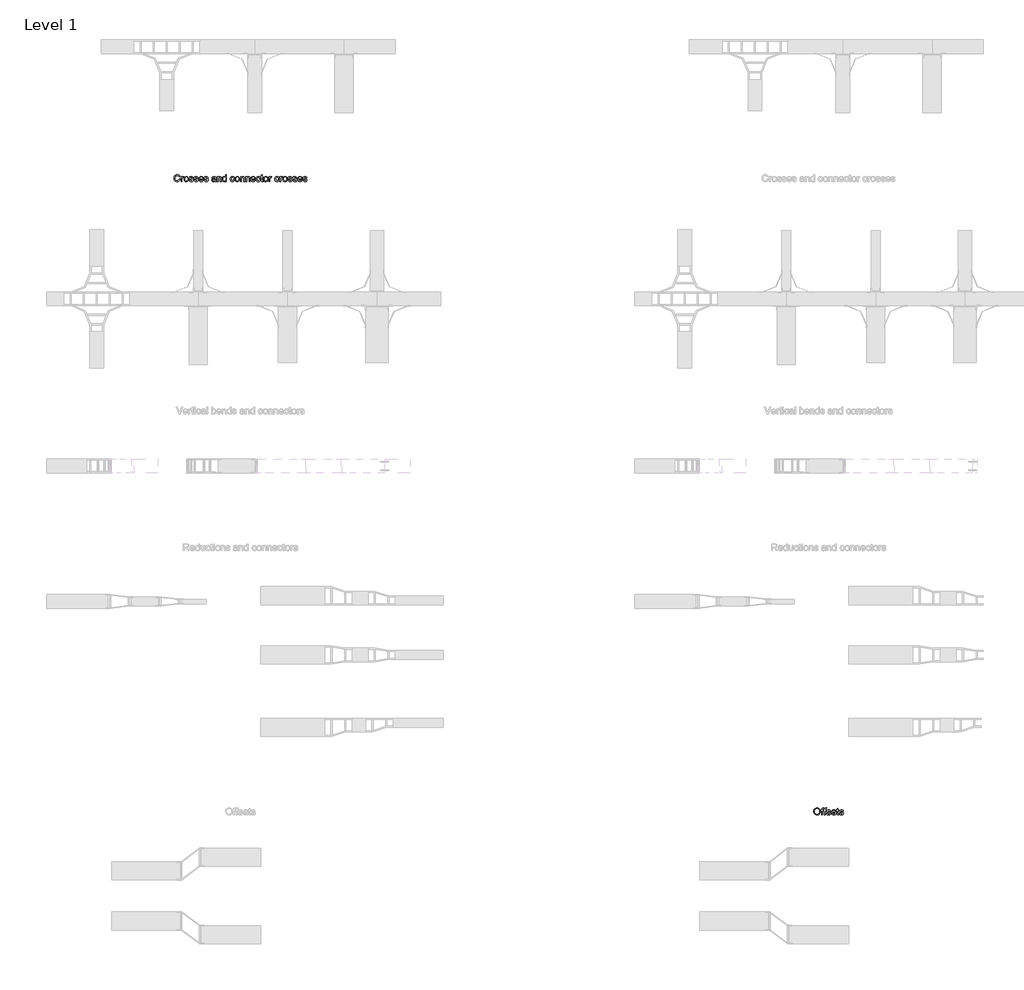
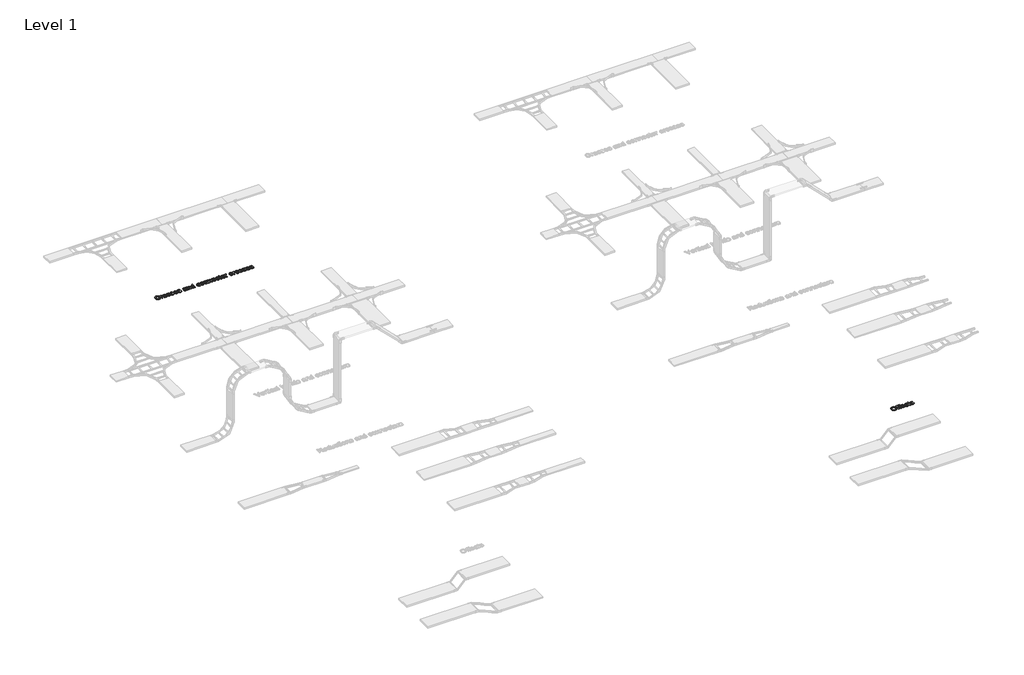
# One storey, part 44 of 106: 2 proxies.
"""IFC4 building model written with IfcOpenShell, lengths in millimetres."""

from ifc_helpers import new_model, si_unit, origin, origin_with_axes, place, context, project, spatial, polyline, outline, extrude, element, save

model = new_model("IFC4")

# Units and contexts
model_context = context("Model", 3, world=origin())
ifc_project = project(units=[si_unit("LENGTHUNIT", "METRE", prefix="MILLI")], contexts=[model_context])

# Site, building, storey
site = spatial("IfcSite", under=ifc_project)
building = spatial("IfcBuilding", under=site)
storey = spatial("IfcBuildingStorey", under=building, Name="Level 1", Elevation=0.0)

# Proxies
placement = place(None, origin())
element("IfcBuildingElementProxy", 1, Name="150mm Arial 2", ObjectType="150mm Arial 2", at=placement, inside=storey, context=model_context, shape_type="SweptSolid", body=[
    extrude(outline(polyline([(41573.187076, 30901.4112533), (41592.0226342, 30896.5552109), (41583.331422, 30874.6064514), (41569.6921971, 30858.5713949), (41551.7763439, 30848.7627412), (41530.2552472, 30845.49319), (41508.4076552, 30847.9671964), (41491.0574206, 30855.3892157), (41477.7584865, 30867.5017304), (41468.0647959, 30884.0472231), (41462.1464943, 30903.4989836), (41460.1737271, 30924.3303016), (41462.4040117, 30946.3020537), (41469.0948655, 30965.2755676), (41479.8968006, 30980.6484365), (41494.460329, 30991.8182536), (41511.7323887, 30998.619472), (41530.6599174, 31000.8865448), (41551.3118929, 30997.9526859), (41568.386216, 30989.1511091), (41581.3494578, 30975.0244405), (41589.6681894, 30956.115306), (41570.8326312, 30951.6271456), (41564.3027258, 30965.3629396), (41555.3815874, 30974.7853172), (41543.9588515, 30980.2345693), (41529.9241534, 30982.0509866), (41513.7465426, 30980.0368327), (41500.4568056, 30973.9943709), (41490.3722404, 30964.5581977), (41483.8101453, 30952.3629096), (41479.0092852, 30924.3670898), (41480.4302295, 30906.9662714), (41484.6930621, 30891.9198978), (41491.9587315, 30879.8027846), (41502.388186, 30871.1897474), (41514.8915754, 30866.043998), (41528.379049, 30864.3287482), (41544.1014058, 30866.6647988), (41557.2026033, 30873.6729508), (41567.0940305, 30885.2796278), (41573.187076, 30901.4112533)])), origin_with_axes(), (0.0, 0.0, 1.0), 15.0),
    extrude(outline(polyline([(41615.5670819, 30847.8476348), (41615.5670819, 30958.5065389), (41632.0481952, 30958.5065389), (41632.0481952, 30942.1357901), (41643.7468427, 30957.2189519), (41655.5190665, 30960.8609837), (41674.4282011, 30955.0484482), (41668.137419, 30938.1626646), (41654.8936671, 30942.0254255), (41644.2434834, 30938.3098174), (41637.4560606, 30928.0091215), (41634.40264, 30906.0097782), (41634.40264, 30847.8476348), (41615.5670819, 30847.8476348)])), origin_with_axes(), (0.0, 0.0, 1.0), 15.0),
    extrude(outline(polyline([(41681.4915354, 30903.1770869), (41685.5658285, 30929.8577286), (41697.7887078, 30948.6105133), (41712.8902637, 30957.7983661), (41730.9716637, 30960.8609837), (41750.7591166, 30957.13158), (41766.5642468, 30945.9433688), (41776.9247235, 30928.179267), (41780.3782157, 30904.7221912), (41778.8515054, 30885.693495), (41774.2713746, 30871.2081415), (41766.7711804, 30860.3602211), (41756.4842801, 30852.2438246), (41744.2659993, 30847.1808487), (41730.9716637, 30845.49319), (41710.9450876, 30849.2087982), (41695.1583515, 30860.3556226), (41684.9082394, 30878.492205), (41681.4915354, 30903.1770869)]), holes=[polyline([(41700.3270935, 30903.2138751), (41702.5067944, 30886.1671431), (41709.0458968, 30874.0224387), (41718.8867402, 30866.7521708), (41730.9716637, 30864.3287482), (41743.001405, 30866.7659664), (41752.8238543, 30874.077621), (41759.3629567, 30886.3832738), (41761.5426575, 30903.8024862), (41759.3491611, 30920.3525775), (41752.768672, 30932.331735), (41742.9324271, 30939.6020029), (41730.9716637, 30942.0254255), (41718.8867402, 30939.6112), (41709.0458968, 30932.3685232), (41702.5067944, 30920.25141), (41700.3270935, 30903.2138751)])]), origin_with_axes(), (0.0, 0.0, 1.0), 15.0),
    extrude(outline(polyline([(41794.5048843, 30880.8098615), (41813.3404425, 30883.1643063), (41816.3110896, 30875.1076906), (41822.0592457, 30869.1847905), (41842.0352381, 30864.3287482), (41861.2386782, 30868.7801203), (41867.4926722, 30879.227969), (41865.9199766, 30884.028829), (41861.20189, 30887.6892549), (41841.8145089, 30893.060332), (41813.4508071, 30902.275776), (41801.0715779, 30913.0363243), (41796.8593291, 30928.2298507), (41800.2438434, 30942.2645488), (41809.4776815, 30952.988309), (41821.4522405, 30958.5617212), (41837.6574423, 30960.8609837), (41860.5764906, 30957.1637696), (41875.1446177, 30947.1573794), (41881.6193408, 30930.2532017), (41862.7837826, 30927.8987569), (41855.7020542, 30938.2914233), (41839.1289703, 30942.0254255), (41821.1027526, 30938.4569702), (41815.6948872, 30930.1428371), (41817.9389674, 30924.6613954), (41824.9655135, 30920.5043288), (41841.1891095, 30916.4944151), (41868.8354414, 30907.628459), (41881.6745231, 30897.5852805), (41886.3282303, 30881.2145317), (41880.8651827, 30863.188314), (41865.1014392, 30850.1101091), (41841.7777207, 30845.49319), (41822.7858127, 30847.7188761), (41808.9258585, 30854.3959343), (41799.6736263, 30865.4507882), (41794.5048843, 30880.8098615)])), origin_with_axes(), (0.0, 0.0, 1.0), 15.0),
    extrude(outline(polyline([(41900.4548989, 30880.8098615), (41919.2904571, 30883.1643063), (41922.2611042, 30875.1076906), (41928.0092604, 30869.1847905), (41947.9852527, 30864.3287482), (41967.1886928, 30868.7801203), (41973.4426868, 30879.227969), (41971.8699912, 30884.028829), (41967.1519046, 30887.6892549), (41947.7645235, 30893.060332), (41919.4008217, 30902.275776), (41907.0215925, 30913.0363243), (41902.8093437, 30928.2298507), (41906.193858, 30942.2645488), (41915.4276961, 30952.988309), (41927.4022551, 30958.5617212), (41943.607457, 30960.8609837), (41966.5265053, 30957.1637696), (41981.0946323, 30947.1573794), (41987.5693554, 30930.2532017), (41968.7337972, 30927.8987569), (41961.6520688, 30938.2914233), (41945.0789849, 30942.0254255), (41927.0527672, 30938.4569702), (41921.6449018, 30930.1428371), (41923.888982, 30924.6613954), (41930.9155281, 30920.5043288), (41947.1391241, 30916.4944151), (41974.785456, 30907.628459), (41987.6245377, 30897.5852805), (41992.2782449, 30881.2145317), (41986.8151973, 30863.188314), (41971.0514538, 30850.1101091), (41947.7277353, 30845.49319), (41928.7358273, 30847.7188761), (41914.8758731, 30854.3959343), (41905.623641, 30865.4507882), (41900.4548989, 30880.8098615)])), origin_with_axes(), (0.0, 0.0, 1.0), 15.0),
    extrude(outline(polyline([(42090.944196, 30880.8098615), (42109.4118722, 30878.4554168), (42102.7578066, 30864.5402803), (42092.1398125, 30854.1384169), (42077.7970132, 30847.6544967), (42059.968532, 30845.49319), (42037.8680212, 30849.2225937), (42020.8626759, 30860.4108049), (42010.0193541, 30878.3312566), (42006.4049135, 30902.2573819), (42010.0561423, 30926.988249), (42021.0098287, 30945.4835163), (42037.7852477, 30957.0166168), (42058.9016742, 30960.8609837), (42079.3605117, 30957.0258139), (42095.7082679, 30945.5203045), (42106.4274295, 30927.0618254), (42110.0004834, 30902.3677465), (42109.8901188, 30897.2909749), (42025.2404717, 30897.2909749), (42028.5008259, 30883.1918975), (42036.0745964, 30872.8268223), (42047.0052902, 30866.4532667), (42060.336414, 30864.3287482), (42078.8040902, 30868.2650855), (42090.944196, 30880.8098615)]), holes=[polyline([(42025.2404717, 30916.1265331), (42091.1649252, 30916.1265331), (42088.6173424, 30926.0777411), (42083.6233443, 30933.1962577), (42072.6420668, 30939.8181336), (42058.8280978, 30942.0254255), (42046.1315705, 30940.2641905), (42035.633138, 30934.9804853), (42028.335279, 30926.7445272), (42025.2404717, 30916.1265331)])]), origin_with_axes(), (0.0, 0.0, 1.0), 15.0),
    extrude(outline(polyline([(42121.7727072, 30880.8098615), (42140.6082654, 30883.1643063), (42143.5789125, 30875.1076906), (42149.3270687, 30869.1847905), (42169.303061, 30864.3287482), (42188.5065011, 30868.7801203), (42194.7604951, 30879.227969), (42193.1877995, 30884.028829), (42188.4697129, 30887.6892549), (42169.0823318, 30893.060332), (42140.71863, 30902.275776), (42128.3394008, 30913.0363243), (42124.127152, 30928.2298507), (42127.5116663, 30942.2645488), (42136.7455044, 30952.988309), (42148.7200634, 30958.5617212), (42164.9252653, 30960.8609837), (42187.8443136, 30957.1637696), (42202.4124406, 30947.1573794), (42208.8871637, 30930.2532017), (42190.0516055, 30927.8987569), (42182.9698771, 30938.2914233), (42166.3967932, 30942.0254255), (42148.3705755, 30938.4569702), (42142.9627101, 30930.1428371), (42145.2067903, 30924.6613954), (42152.2333364, 30920.5043288), (42168.4569324, 30916.4944151), (42196.1032643, 30907.628459), (42208.942346, 30897.5852805), (42213.5960532, 30881.2145317), (42208.1330056, 30863.188314), (42192.3692621, 30850.1101091), (42169.0455436, 30845.49319), (42150.0536356, 30847.7188761), (42136.1936814, 30854.3959343), (42126.9414493, 30865.4507882), (42121.7727072, 30880.8098615)])), origin_with_axes(), (0.0, 0.0, 1.0), 15.0),
    extrude(outline(polyline([(42364.2805184, 30861.9743034), (42346.0151774, 30849.2087982), (42325.8368499, 30845.49319), (42310.0960991, 30847.7280731), (42298.4848236, 30854.4327225), (42291.3249203, 30864.6138567), (42288.9382858, 30877.2781944), (42292.5435294, 30892.1774152), (42302.0164908, 30902.9931459), (42315.2050603, 30909.1735634), (42331.5022327, 30912.0062547), (42364.1701538, 30918.4809779), (42364.2805184, 30922.6748326), (42362.9837344, 30931.0809362), (42359.0933823, 30936.580772), (42350.3929731, 30940.6642622), (42338.2712614, 30942.0254255), (42319.214974, 30938.4017879), (42310.1282887, 30925.5443122), (42291.2927306, 30927.8987569), (42299.4413168, 30946.2928567), (42315.8488538, 30957.0717991), (42340.6992825, 30960.8609837), (42363.5263603, 30957.5132575), (42376.4206243, 30949.107154), (42382.1963716, 30936.3232546), (42383.1160766, 30919.8421412), (42383.1160766, 30896.4080581), (42384.0725698, 30863.6849547), (42387.8249661, 30847.8476348), (42368.989408, 30847.8476348), (42364.2805184, 30861.9743034)]), holes=[polyline([(42364.2805184, 30899.6454197), (42333.8934656, 30893.8696724), (42317.6882638, 30890.8162518), (42310.3490179, 30885.8498449), (42307.773844, 30878.6025696), (42313.3840444, 30868.4122383), (42329.8467637, 30864.3287482), (42348.903051, 30868.8353026), (42361.1903097, 30879.7430038), (42364.1701538, 30894.3111308), (42364.2805184, 30899.6454197)])]), origin_with_axes(), (0.0, 0.0, 1.0), 15.0),
    extrude(outline(polyline([(42409.0149691, 30847.8476348), (42409.0149691, 30958.5065389), (42427.8505272, 30958.5065389), (42427.8505272, 30943.0554951), (42442.2531073, 30956.4096116), (42461.9164, 30960.8609837), (42479.7034944, 30957.2741342), (42491.8436003, 30947.8563552), (42497.4905889, 30934.0055981), (42498.4838703, 30915.7954393), (42498.4838703, 30847.8476348), (42479.6483121, 30847.8476348), (42479.6483121, 30913.2570535), (42477.4778084, 30929.9221079), (42469.8074688, 30938.7328817), (42456.8764166, 30942.0254255), (42445.8445553, 30940.1768185), (42436.4405718, 30934.6309974), (42429.9980384, 30923.9164343), (42427.8505272, 30906.5616012), (42427.8505272, 30847.8476348), (42409.0149691, 30847.8476348)])), origin_with_axes(), (0.0, 0.0, 1.0), 15.0),
    extrude(outline(polyline([(42592.661661, 30847.8476348), (42592.661661, 30865.6163351), (42580.1996585, 30850.5239763), (42562.973584, 30845.49319), (42550.79669, 30847.3142059), (42539.6498655, 30852.7772535), (42530.2136924, 30861.5006553), (42523.1687522, 30873.1027337), (42518.7817594, 30887.1144392), (42517.3194284, 30903.0667223), (42522.7088997, 30933.0491049), (42529.4411402, 30944.9408904), (42538.8589193, 30953.6872848), (42550.2494655, 30959.067559), (42562.9000076, 30960.8609837), (42580.2640378, 30955.7290299), (42592.661661, 30942.3933075), (42592.661661, 30998.5321), (42611.4972192, 30998.5321), (42611.4972192, 30847.8476348), (42592.661661, 30847.8476348)]), holes=[polyline([(42536.1549866, 30903.1402987), (42538.2795051, 30886.1027638), (42544.6530607, 30873.9856505), (42553.9144899, 30866.7429738), (42564.7026294, 30864.3287482), (42575.4861704, 30866.6326092), (42584.5130749, 30873.5441921), (42590.6245145, 30885.1922558), (42592.661661, 30901.7055589), (42590.5877263, 30919.7593678), (42584.3659221, 30932.2765527), (42575.1090914, 30939.5882073), (42563.9300772, 30942.0254255), (42553.0315731, 30939.6847764), (42544.1012377, 30932.6628288), (42538.1415494, 30920.6008979), (42536.1549866, 30903.1402987)])]), origin_with_axes(), (0.0, 0.0, 1.0), 15.0),
    extrude(outline(polyline([(42769.2450187, 30887.8731959), (42788.0805769, 30885.5187511), (42782.8290614, 30868.7663247), (42772.9606269, 30856.1065856), (42759.4041754, 30848.1465389), (42743.0886089, 30845.49319), (42723.0528357, 30849.1950026), (42707.3856612, 30860.3004403), (42697.2735049, 30878.3220596), (42693.9027861, 30902.7724167), (42695.3421244, 30919.5340401), (42699.6601393, 30934.0607803), (42706.9258087, 30945.7916175), (42717.2081105, 30954.1655314), (42729.5091647, 30959.1871206), (42742.8310915, 30960.8609837), (42758.7465863, 30958.5617212), (42771.4707048, 30951.6639338), (42780.5987768, 30940.5355035), (42785.7261321, 30925.5443122), (42766.890574, 30923.1898674), (42758.1533766, 30937.2981419), (42742.9782443, 30942.0254255), (42730.8059488, 30939.6985719), (42721.1444479, 30932.7180111), (42714.8398702, 30920.7066639), (42712.7383443, 30903.2874515), (42714.7938849, 30885.6337142), (42720.9605069, 30873.5809803), (42730.4472638, 30866.6418062), (42742.4632095, 30864.3287482), (42752.2166809, 30865.772685), (42760.2135157, 30870.1044955), (42766.0306498, 30877.4345442), (42769.2450187, 30887.8731959)])), origin_with_axes(), (0.0, 0.0, 1.0), 15.0),
    extrude(outline(polyline([(42799.8528007, 30903.1770869), (42803.9270938, 30929.8577286), (42816.1499731, 30948.6105133), (42831.251529, 30957.7983661), (42849.3329291, 30960.8609837), (42869.1203819, 30957.13158), (42884.9255121, 30945.9433688), (42895.2859888, 30928.179267), (42898.739481, 30904.7221912), (42897.2127708, 30885.693495), (42892.6326399, 30871.2081415), (42885.1324457, 30860.3602211), (42874.8455454, 30852.2438246), (42862.6272647, 30847.1808487), (42849.3329291, 30845.49319), (42829.306353, 30849.2087982), (42813.5196168, 30860.3556226), (42803.2695048, 30878.492205), (42799.8528007, 30903.1770869)]), holes=[polyline([(42818.6883589, 30903.2138751), (42820.8680597, 30886.1671431), (42827.4071622, 30874.0224387), (42837.2480055, 30866.7521708), (42849.3329291, 30864.3287482), (42861.3626703, 30866.7659664), (42871.1851196, 30874.077621), (42877.7242221, 30886.3832738), (42879.9039229, 30903.8024862), (42877.7104265, 30920.3525775), (42871.1299373, 30932.331735), (42861.2936924, 30939.6020029), (42849.3329291, 30942.0254255), (42837.2480055, 30939.6112), (42827.4071622, 30932.3685232), (42820.8680597, 30920.25141), (42818.6883589, 30903.2138751)])]), origin_with_axes(), (0.0, 0.0, 1.0), 15.0),
    extrude(outline(polyline([(42919.929484, 30847.8476348), (42919.929484, 30958.5065389), (42938.7650421, 30958.5065389), (42938.7650421, 30943.0554951), (42953.1676222, 30956.4096116), (42972.8309149, 30960.8609837), (42990.6180093, 30957.2741342), (43002.7581152, 30947.8563552), (43008.4051038, 30934.0055981), (43009.3983852, 30915.7954393), (43009.3983852, 30847.8476348), (42990.562827, 30847.8476348), (42990.562827, 30913.2570535), (42988.3923233, 30929.9221079), (42980.7219837, 30938.7328817), (42967.7909315, 30942.0254255), (42956.7590702, 30940.1768185), (42947.3550867, 30934.6309974), (42940.9125533, 30923.9164343), (42938.7650421, 30906.5616012), (42938.7650421, 30847.8476348), (42919.929484, 30847.8476348)])), origin_with_axes(), (0.0, 0.0, 1.0), 15.0),
    extrude(outline(polyline([(43035.2972776, 30847.8476348), (43035.2972776, 30958.5065389), (43054.1328358, 30958.5065389), (43054.1328358, 30943.0554951), (43068.5354159, 30956.4096116), (43088.1987085, 30960.8609837), (43105.985803, 30957.2741342), (43118.1259089, 30947.8563552), (43123.7728975, 30934.0055981), (43124.7661789, 30915.7954393), (43124.7661789, 30847.8476348), (43105.9306207, 30847.8476348), (43105.9306207, 30913.2570535), (43103.7601169, 30929.9221079), (43096.0897773, 30938.7328817), (43083.1587252, 30942.0254255), (43072.1268639, 30940.1768185), (43062.7228804, 30934.6309974), (43056.2803469, 30923.9164343), (43054.1328358, 30906.5616012), (43054.1328358, 30847.8476348), (43035.2972776, 30847.8476348)])), origin_with_axes(), (0.0, 0.0, 1.0), 15.0),
    extrude(outline(polyline([(43228.1410195, 30880.8098615), (43246.6086957, 30878.4554168), (43239.9546301, 30864.5402803), (43229.336636, 30854.1384169), (43214.9938367, 30847.6544967), (43197.1653555, 30845.49319), (43175.0648447, 30849.2225937), (43158.0594994, 30860.4108049), (43147.2161776, 30878.3312566), (43143.601737, 30902.2573819), (43147.2529658, 30926.988249), (43158.2066522, 30945.4835163), (43174.9820712, 30957.0166168), (43196.0984977, 30960.8609837), (43216.5573352, 30957.0258139), (43232.9050914, 30945.5203045), (43243.624253, 30927.0618254), (43247.1973069, 30902.3677465), (43247.0869423, 30897.2909749), (43162.4372952, 30897.2909749), (43165.6976494, 30883.1918975), (43173.2714199, 30872.8268223), (43184.2021137, 30866.4532667), (43197.5332375, 30864.3287482), (43216.0009137, 30868.2650855), (43228.1410195, 30880.8098615)]), holes=[polyline([(43162.4372952, 30916.1265331), (43228.3617487, 30916.1265331), (43225.8141659, 30926.0777411), (43220.8201678, 30933.1962577), (43209.8388903, 30939.8181336), (43196.0249213, 30942.0254255), (43183.328394, 30940.2641905), (43172.8299615, 30934.9804853), (43165.5321025, 30926.7445272), (43162.4372952, 30916.1265331)])]), origin_with_axes(), (0.0, 0.0, 1.0), 15.0),
    extrude(outline(polyline([(43336.6662081, 30887.8731959), (43355.5017662, 30885.5187511), (43350.2502508, 30868.7663247), (43340.3818162, 30856.1065856), (43326.8253647, 30848.1465389), (43310.5097982, 30845.49319), (43290.4740251, 30849.1950026), (43274.8068506, 30860.3004403), (43264.6946943, 30878.3220596), (43261.3239755, 30902.7724167), (43262.7633138, 30919.5340401), (43267.0813287, 30934.0607803), (43274.3469981, 30945.7916175), (43284.6292999, 30954.1655314), (43296.9303541, 30959.1871206), (43310.2522808, 30960.8609837), (43326.1677757, 30958.5617212), (43338.8918942, 30951.6639338), (43348.0199662, 30940.5355035), (43353.1473215, 30925.5443122), (43334.3117633, 30923.1898674), (43325.5745659, 30937.2981419), (43310.3994336, 30942.0254255), (43298.2271381, 30939.6985719), (43288.5656372, 30932.7180111), (43282.2610595, 30920.7066639), (43280.1595336, 30903.2874515), (43282.2150743, 30885.6337142), (43288.3816962, 30873.5809803), (43297.8684532, 30866.6418062), (43309.8843988, 30864.3287482), (43319.6378702, 30865.772685), (43327.6347051, 30870.1044955), (43333.4518392, 30877.4345442), (43336.6662081, 30887.8731959)])), origin_with_axes(), (0.0, 0.0, 1.0), 15.0),
    extrude(outline(polyline([(43412.0084407, 30863.556196), (43414.3628855, 30847.2958118), (43400.2730051, 30845.49319), (43384.4908675, 30848.620187), (43376.6181928, 30856.8239555), (43374.3373244, 30878.1978994), (43374.3373244, 30939.6709808), (43360.2106558, 30939.6709808), (43360.2106558, 30958.5065389), (43374.3373244, 30958.5065389), (43374.3373244, 30985.3987128), (43393.1728826, 30996.4719608), (43393.1728826, 30958.5065389), (43412.0084407, 30958.5065389), (43412.0084407, 30939.6709808), (43393.1728826, 30939.6709808), (43393.1728826, 30878.7497224), (43394.1661639, 30869.0376377), (43397.3851314, 30865.597941), (43403.8046722, 30864.3287482), (43412.0084407, 30863.556196)])), origin_with_axes(), (0.0, 0.0, 1.0), 15.0),
    extrude(outline(polyline([(43426.1351093, 30903.1770869), (43430.2094024, 30929.8577286), (43442.4322817, 30948.6105133), (43457.5338376, 30957.7983661), (43475.6152377, 30960.8609837), (43495.4026905, 30957.13158), (43511.2078207, 30945.9433688), (43521.5682974, 30928.179267), (43525.0217896, 30904.7221912), (43523.4950793, 30885.693495), (43518.9149485, 30871.2081415), (43511.4147543, 30860.3602211), (43501.127854, 30852.2438246), (43488.9095733, 30847.1808487), (43475.6152377, 30845.49319), (43455.5886616, 30849.2087982), (43439.8019254, 30860.3556226), (43429.5518133, 30878.492205), (43426.1351093, 30903.1770869)]), holes=[polyline([(43444.9706675, 30903.2138751), (43447.1503683, 30886.1671431), (43453.6894708, 30874.0224387), (43463.5303141, 30866.7521708), (43475.6152377, 30864.3287482), (43487.6449789, 30866.7659664), (43497.4674282, 30874.077621), (43504.0065306, 30886.3832738), (43506.1862315, 30903.8024862), (43503.9927351, 30920.3525775), (43497.4122459, 30932.331735), (43487.576001, 30939.6020029), (43475.6152377, 30942.0254255), (43463.5303141, 30939.6112), (43453.6894708, 30932.3685232), (43447.1503683, 30920.25141), (43444.9706675, 30903.2138751)])]), origin_with_axes(), (0.0, 0.0, 1.0), 15.0),
    extrude(outline(polyline([(43546.2117925, 30847.8476348), (43546.2117925, 30958.5065389), (43562.6929059, 30958.5065389), (43562.6929059, 30942.1357901), (43574.3915534, 30957.2189519), (43586.1637772, 30960.8609837), (43605.0729118, 30955.0484482), (43598.7821297, 30938.1626646), (43585.5383778, 30942.0254255), (43574.8881941, 30938.3098174), (43568.1007713, 30928.0091215), (43565.0473507, 30906.0097782), (43565.0473507, 30847.8476348), (43546.2117925, 30847.8476348)])), origin_with_axes(), (0.0, 0.0, 1.0), 15.0),
    extrude(outline(polyline([(43746.3395979, 30887.8731959), (43765.1751561, 30885.5187511), (43759.9236406, 30868.7663247), (43750.0552061, 30856.1065856), (43736.4987545, 30848.1465389), (43720.1831881, 30845.49319), (43700.1474149, 30849.1950026), (43684.4802404, 30860.3004403), (43674.3680841, 30878.3220596), (43670.9973653, 30902.7724167), (43672.4367036, 30919.5340401), (43676.7547185, 30934.0607803), (43684.0203879, 30945.7916175), (43694.3026897, 30954.1655314), (43706.6037439, 30959.1871206), (43719.9256707, 30960.8609837), (43735.8411655, 30958.5617212), (43748.565284, 30951.6639338), (43757.693356, 30940.5355035), (43762.8207113, 30925.5443122), (43743.9851532, 30923.1898674), (43735.2479558, 30937.2981419), (43720.0728235, 30942.0254255), (43707.9005279, 30939.6985719), (43698.2390271, 30932.7180111), (43691.9344494, 30920.7066639), (43689.8329235, 30903.2874515), (43691.8884641, 30885.6337142), (43698.0550861, 30873.5809803), (43707.541843, 30866.6418062), (43719.5577887, 30864.3287482), (43729.3112601, 30865.772685), (43737.3080949, 30870.1044955), (43743.125229, 30877.4345442), (43746.3395979, 30887.8731959)])), origin_with_axes(), (0.0, 0.0, 1.0), 15.0),
    extrude(outline(polyline([(43781.6562695, 30847.8476348), (43781.6562695, 30958.5065389), (43798.1373828, 30958.5065389), (43798.1373828, 30942.1357901), (43809.8360303, 30957.2189519), (43821.6082541, 30960.8609837), (43840.5173887, 30955.0484482), (43834.2266066, 30938.1626646), (43820.9828547, 30942.0254255), (43810.332671, 30938.3098174), (43803.5452482, 30928.0091215), (43800.4918276, 30906.0097782), (43800.4918276, 30847.8476348), (43781.6562695, 30847.8476348)])), origin_with_axes(), (0.0, 0.0, 1.0), 15.0),
    extrude(outline(polyline([(43847.580723, 30903.1770869), (43851.6550161, 30929.8577286), (43863.8778954, 30948.6105133), (43878.9794513, 30957.7983661), (43897.0608513, 30960.8609837), (43916.8483042, 30957.13158), (43932.6534344, 30945.9433688), (43943.0139111, 30928.179267), (43946.4674033, 30904.7221912), (43944.940693, 30885.693495), (43940.3605622, 30871.2081415), (43932.860368, 30860.3602211), (43922.5734677, 30852.2438246), (43910.3551869, 30847.1808487), (43897.0608513, 30845.49319), (43877.0342752, 30849.2087982), (43861.2475391, 30860.3556226), (43850.997427, 30878.492205), (43847.580723, 30903.1770869)]), holes=[polyline([(43866.4162811, 30903.2138751), (43868.595982, 30886.1671431), (43875.1350844, 30874.0224387), (43884.9759278, 30866.7521708), (43897.0608513, 30864.3287482), (43909.0905926, 30866.7659664), (43918.9130419, 30874.077621), (43925.4521443, 30886.3832738), (43927.6318451, 30903.8024862), (43925.4383487, 30920.3525775), (43918.8578596, 30932.331735), (43909.0216147, 30939.6020029), (43897.0608513, 30942.0254255), (43884.9759278, 30939.6112), (43875.1350844, 30932.3685232), (43868.595982, 30920.25141), (43866.4162811, 30903.2138751)])]), origin_with_axes(), (0.0, 0.0, 1.0), 15.0),
    extrude(outline(polyline([(43960.5940719, 30880.8098615), (43979.4296301, 30883.1643063), (43982.4002772, 30875.1076906), (43988.1484333, 30869.1847905), (44008.1244257, 30864.3287482), (44027.3278658, 30868.7801203), (44033.5818598, 30879.227969), (44032.0091642, 30884.028829), (44027.2910776, 30887.6892549), (44007.9036965, 30893.060332), (43979.5399947, 30902.275776), (43967.1607655, 30913.0363243), (43962.9485167, 30928.2298507), (43966.333031, 30942.2645488), (43975.5668691, 30952.988309), (43987.5414281, 30958.5617212), (44003.7466299, 30960.8609837), (44026.6656782, 30957.1637696), (44041.2338053, 30947.1573794), (44047.7085284, 30930.2532017), (44028.8729702, 30927.8987569), (44021.7912418, 30938.2914233), (44005.2181579, 30942.0254255), (43987.1919402, 30938.4569702), (43981.7840748, 30930.1428371), (43984.028155, 30924.6613954), (43991.0547011, 30920.5043288), (44007.2782971, 30916.4944151), (44034.924629, 30907.628459), (44047.7637107, 30897.5852805), (44052.4174179, 30881.2145317), (44046.9543703, 30863.188314), (44031.1906268, 30850.1101091), (44007.8669083, 30845.49319), (43988.8750003, 30847.7188761), (43975.0150461, 30854.3959343), (43965.7628139, 30865.4507882), (43960.5940719, 30880.8098615)])), origin_with_axes(), (0.0, 0.0, 1.0), 15.0),
    extrude(outline(polyline([(44066.5440865, 30880.8098615), (44085.3796447, 30883.1643063), (44088.3502918, 30875.1076906), (44094.098448, 30869.1847905), (44114.0744403, 30864.3287482), (44133.2778804, 30868.7801203), (44139.5318744, 30879.227969), (44137.9591788, 30884.028829), (44133.2410922, 30887.6892549), (44113.8537111, 30893.060332), (44085.4900093, 30902.275776), (44073.1107801, 30913.0363243), (44068.8985313, 30928.2298507), (44072.2830456, 30942.2645488), (44081.5168837, 30952.988309), (44093.4914427, 30958.5617212), (44109.6966446, 30960.8609837), (44132.6156929, 30957.1637696), (44147.1838199, 30947.1573794), (44153.658543, 30930.2532017), (44134.8229848, 30927.8987569), (44127.7412564, 30938.2914233), (44111.1681725, 30942.0254255), (44093.1419548, 30938.4569702), (44087.7340894, 30930.1428371), (44089.9781696, 30924.6613954), (44097.0047157, 30920.5043288), (44113.2283117, 30916.4944151), (44140.8746436, 30907.628459), (44153.7137253, 30897.5852805), (44158.3674325, 30881.2145317), (44152.9043849, 30863.188314), (44137.1406414, 30850.1101091), (44113.8169229, 30845.49319), (44094.8250149, 30847.7188761), (44080.9650607, 30854.3959343), (44071.7128286, 30865.4507882), (44066.5440865, 30880.8098615)])), origin_with_axes(), (0.0, 0.0, 1.0), 15.0),
    extrude(outline(polyline([(44257.0333836, 30880.8098615), (44275.5010598, 30878.4554168), (44268.8469942, 30864.5402803), (44258.2290001, 30854.1384169), (44243.8862008, 30847.6544967), (44226.0577196, 30845.49319), (44203.9572088, 30849.2225937), (44186.9518635, 30860.4108049), (44176.1085417, 30878.3312566), (44172.4941011, 30902.2573819), (44176.1453299, 30926.988249), (44187.0990163, 30945.4835163), (44203.8744353, 30957.0166168), (44224.9908618, 30960.8609837), (44245.4496993, 30957.0258139), (44261.7974555, 30945.5203045), (44272.5166171, 30927.0618254), (44276.089671, 30902.3677465), (44275.9793064, 30897.2909749), (44191.3296593, 30897.2909749), (44194.5900135, 30883.1918975), (44202.163784, 30872.8268223), (44213.0944778, 30866.4532667), (44226.4256016, 30864.3287482), (44244.8932778, 30868.2650855), (44257.0333836, 30880.8098615)]), holes=[polyline([(44191.3296593, 30916.1265331), (44257.2541128, 30916.1265331), (44254.70653, 30926.0777411), (44249.7125319, 30933.1962577), (44238.7312544, 30939.8181336), (44224.9172854, 30942.0254255), (44212.2207581, 30940.2641905), (44201.7223256, 30934.9804853), (44194.4244666, 30926.7445272), (44191.3296593, 30916.1265331)])]), origin_with_axes(), (0.0, 0.0, 1.0), 15.0),
    extrude(outline(polyline([(44287.8618948, 30880.8098615), (44306.697453, 30883.1643063), (44309.6681001, 30875.1076906), (44315.4162563, 30869.1847905), (44335.3922486, 30864.3287482), (44354.5956887, 30868.7801203), (44360.8496827, 30879.227969), (44359.2769871, 30884.028829), (44354.5589005, 30887.6892549), (44335.1715194, 30893.060332), (44306.8078176, 30902.275776), (44294.4285884, 30913.0363243), (44290.2163396, 30928.2298507), (44293.6008539, 30942.2645488), (44302.834692, 30952.988309), (44314.809251, 30958.5617212), (44331.0144529, 30960.8609837), (44353.9335012, 30957.1637696), (44368.5016282, 30947.1573794), (44374.9763513, 30930.2532017), (44356.1407931, 30927.8987569), (44349.0590647, 30938.2914233), (44332.4859808, 30942.0254255), (44314.4597631, 30938.4569702), (44309.0518977, 30930.1428371), (44311.2959779, 30924.6613954), (44318.322524, 30920.5043288), (44334.54612, 30916.4944151), (44362.1924519, 30907.628459), (44375.0315336, 30897.5852805), (44379.6852408, 30881.2145317), (44374.2221932, 30863.188314), (44358.4584497, 30850.1101091), (44335.1347312, 30845.49319), (44316.1428232, 30847.7188761), (44302.282869, 30854.3959343), (44293.0306369, 30865.4507882), (44287.8618948, 30880.8098615)])), origin_with_axes(), (0.0, 0.0, 1.0), 15.0),
])
element("IfcBuildingElementProxy", 2, Name="150mm Arial 2", ObjectType="150mm Arial 2", at=placement, inside=storey, context=model_context, shape_type="SweptSolid", body=[
    extrude(outline(polyline([(55492.661661, 17021.2033046), (55497.6832503, 17054.5242163), (55503.9602368, 17068.1427479), (55512.748018, 17079.7333301), (55535.7498397, 17095.5982411), (55564.5825911, 17100.8865448), (55584.3470513, 17098.4033413), (55602.0697664, 17090.9537309), (55616.7850462, 17079.0619454), (55627.5272005, 17063.2522167), (55634.0938941, 17044.2878998), (55636.282792, 17022.93235), (55633.978931, 17001.2916916), (55627.067348, 16982.0606603), (55615.9297206, 16966.2233404), (55600.9477263, 16954.7638163), (55583.3767625, 16947.8108466), (55564.4722265, 16945.49319), (55544.4042637, 16948.0545684), (55526.580381, 16955.7387036), (55511.9018894, 16967.8512183), (55501.2700997, 16983.6977352), (55494.8137707, 17001.9308866), (55492.661661, 17021.2033046)]), holes=[polyline([(55511.4972192, 17021.0193636), (55515.2634111, 16997.4473248), (55526.5619869, 16979.4854864), (55543.5443395, 16968.1179327), (55564.3618619, 16964.3287482), (55585.482887, 16968.1547209), (55602.4928307, 16979.6326392), (55613.708633, 16998.1463006), (55617.4472338, 17023.0795028), (55615.8469471, 17039.7537542), (55611.0460871, 17054.1655314), (55603.1688139, 17065.9515508), (55592.3392876, 17074.748529), (55579.2748783, 17080.2253722), (55564.6929557, 17082.0509866), (55544.4318548, 17078.533115), (55527.2057804, 17067.9795003), (55515.4243595, 17049.203723), (55511.4972192, 17021.0193636)])]), origin_with_axes(), (0.0, 0.0, 1.0), 15.0),
    extrude(outline(polyline([(55725.7516932, 16947.8476348), (55725.7516932, 17039.6709808), (55709.2705798, 17039.6709808), (55709.2705798, 17058.5065389), (55725.7516932, 17058.5065389), (55725.7516932, 17069.6533634), (55727.738256, 17085.3619246), (55737.3767642, 17096.5823254), (55756.3594752, 17100.8865448), (55773.5395644, 17098.8264056), (55770.7804494, 17081.1680698), (55759.9279305, 17082.0509866), (55748.0637362, 17078.9239897), (55744.5872513, 17067.2621304), (55744.5872513, 17058.5065389), (55765.7772543, 17058.5065389), (55765.7772543, 17039.6709808), (55744.5872513, 17039.6709808), (55744.5872513, 16947.8476348), (55725.7516932, 16947.8476348)])), origin_with_axes(), (0.0, 0.0, 1.0), 15.0),
    extrude(outline(polyline([(55664.5361292, 16947.8476348), (55664.5361292, 17039.6709808), (55648.0550158, 17039.6709808), (55648.0550158, 17058.5065389), (55664.5361292, 17058.5065389), (55664.5361292, 17069.6533634), (55666.522692, 17085.3619246), (55676.1612002, 17096.5823254), (55695.1439112, 17100.8865448), (55712.3240004, 17098.8264056), (55709.5648854, 17081.1680698), (55698.7123665, 17082.0509866), (55686.8481722, 17078.9239897), (55683.3716873, 17067.2621304), (55683.3716873, 17058.5065389), (55704.5616903, 17058.5065389), (55704.5616903, 17039.6709808), (55683.3716873, 17039.6709808), (55683.3716873, 16947.8476348), (55664.5361292, 16947.8476348)])), origin_with_axes(), (0.0, 0.0, 1.0), 15.0),
    extrude(outline(polyline([(55775.1950333, 16980.8098615), (55794.0305915, 16983.1643063), (55797.0012386, 16975.1076906), (55802.7493948, 16969.1847905), (55822.7253871, 16964.3287482), (55841.9288273, 16968.7801203), (55848.1828212, 16979.227969), (55846.6101257, 16984.028829), (55841.8920391, 16987.6892549), (55822.5046579, 16993.060332), (55794.1409561, 17002.275776), (55781.761727, 17013.0363243), (55777.5494781, 17028.2298507), (55780.9339925, 17042.2645488), (55790.1678305, 17052.988309), (55802.1423895, 17058.5617212), (55818.3475914, 17060.8609837), (55841.2666397, 17057.1637696), (55855.8347667, 17047.1573794), (55862.3094898, 17030.2532017), (55843.4739316, 17027.8987569), (55836.3922032, 17038.2914233), (55819.8191194, 17042.0254255), (55801.7929016, 17038.4569702), (55796.3850363, 17030.1428371), (55798.6291164, 17024.6613954), (55805.6556625, 17020.5043288), (55821.8792585, 17016.4944151), (55849.5255905, 17007.628459), (55862.3646721, 16997.5852805), (55867.0183793, 16981.2145317), (55861.5553317, 16963.188314), (55845.7915882, 16950.1101091), (55822.4678697, 16945.49319), (55803.4759617, 16947.7188761), (55789.6160076, 16954.3959343), (55780.3637754, 16965.4507882), (55775.1950333, 16980.8098615)])), origin_with_axes(), (0.0, 0.0, 1.0), 15.0),
    extrude(outline(polyline([(55965.6843304, 16980.8098615), (55984.1520066, 16978.4554168), (55977.497941, 16964.5402803), (55966.8799469, 16954.1384169), (55952.5371476, 16947.6544967), (55934.7086664, 16945.49319), (55912.6081556, 16949.2225937), (55895.6028104, 16960.4108049), (55884.7594886, 16978.3312566), (55881.145048, 17002.2573819), (55884.7962768, 17026.988249), (55895.7499632, 17045.4835163), (55912.5253821, 17057.0166168), (55933.6418087, 17060.8609837), (55954.1006461, 17057.0258139), (55970.4484023, 17045.5203045), (55981.1675639, 17027.0618254), (55984.7406178, 17002.3677465), (55984.6302532, 16997.2909749), (55899.9806061, 16997.2909749), (55903.2409603, 16983.1918975), (55910.8147309, 16972.8268223), (55921.7454246, 16966.4532667), (55935.0765484, 16964.3287482), (55953.5442246, 16968.2650855), (55965.6843304, 16980.8098615)]), holes=[polyline([(55899.9806061, 17016.1265331), (55965.9050596, 17016.1265331), (55963.3574768, 17026.0777411), (55958.3634787, 17033.1962577), (55947.3822012, 17039.8181336), (55933.5682323, 17042.0254255), (55920.8717049, 17040.2641905), (55910.3732725, 17034.9804853), (55903.0754134, 17026.7445272), (55899.9806061, 17016.1265331)])]), origin_with_axes(), (0.0, 0.0, 1.0), 15.0),
    extrude(outline(polyline([(56043.601737, 16963.556196), (56045.9561818, 16947.2958118), (56031.8663014, 16945.49319), (56016.0841638, 16948.620187), (56008.2114891, 16956.8239555), (56005.9306207, 16978.1978994), (56005.9306207, 17039.6709808), (55991.8039521, 17039.6709808), (55991.8039521, 17058.5065389), (56005.9306207, 17058.5065389), (56005.9306207, 17085.3987128), (56024.7661789, 17096.4719608), (56024.7661789, 17058.5065389), (56043.601737, 17058.5065389), (56043.601737, 17039.6709808), (56024.7661789, 17039.6709808), (56024.7661789, 16978.7497224), (56025.7594603, 16969.0376377), (56028.9784277, 16965.597941), (56035.3979685, 16964.3287482), (56043.601737, 16963.556196)])), origin_with_axes(), (0.0, 0.0, 1.0), 15.0),
    extrude(outline(polyline([(56055.3739609, 16980.8098615), (56074.209519, 16983.1643063), (56077.1801661, 16975.1076906), (56082.9283223, 16969.1847905), (56102.9043146, 16964.3287482), (56122.1077548, 16968.7801203), (56128.3617487, 16979.227969), (56126.7890532, 16984.028829), (56122.0709666, 16987.6892549), (56102.6835854, 16993.060332), (56074.3198836, 17002.275776), (56061.9406545, 17013.0363243), (56057.7284056, 17028.2298507), (56061.11292, 17042.2645488), (56070.3467581, 17052.988309), (56082.321317, 17058.5617212), (56098.5265189, 17060.8609837), (56121.4455672, 17057.1637696), (56136.0136942, 17047.1573794), (56142.4884173, 17030.2532017), (56123.6528592, 17027.8987569), (56116.5711308, 17038.2914233), (56099.9980469, 17042.0254255), (56081.9718291, 17038.4569702), (56076.5639638, 17030.1428371), (56078.808044, 17024.6613954), (56085.8345901, 17020.5043288), (56102.0581861, 17016.4944151), (56129.704518, 17007.628459), (56142.5435996, 16997.5852805), (56147.1973069, 16981.2145317), (56141.7342592, 16963.188314), (56125.9705157, 16950.1101091), (56102.6467972, 16945.49319), (56083.6548892, 16947.7188761), (56069.7949351, 16954.3959343), (56060.5427029, 16965.4507882), (56055.3739609, 16980.8098615)])), origin_with_axes(), (0.0, 0.0, 1.0), 15.0),
])

save(model, "model.ifc")
